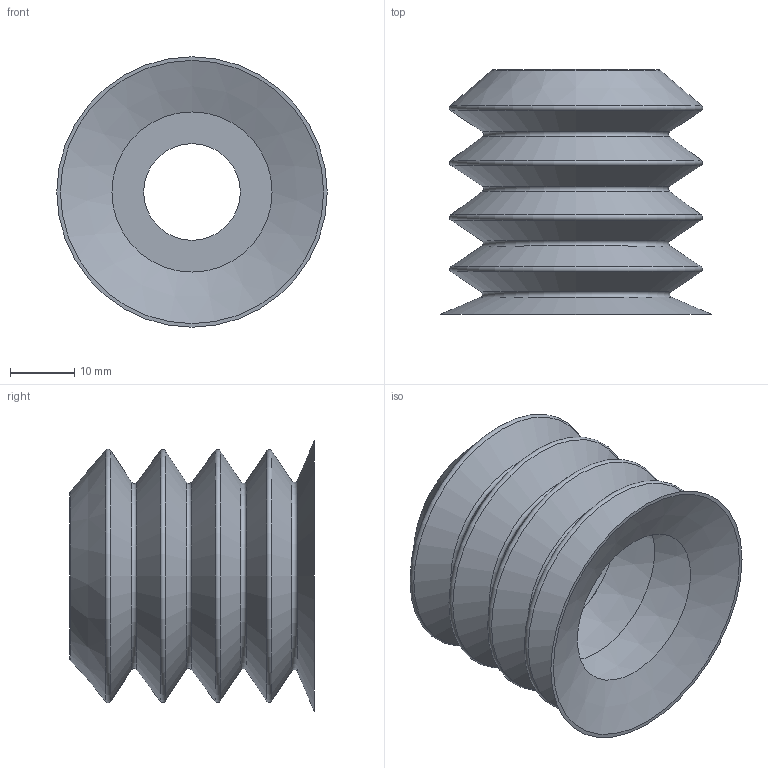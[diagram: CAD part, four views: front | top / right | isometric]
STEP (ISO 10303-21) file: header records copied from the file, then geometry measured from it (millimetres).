
FILE_DESCRIPTION (( 'STEP AP214' ), '1' );
FILE_NAME ('45B.042.001.02MD.STEP', '2025-12-29T15:00:05', ( '' ), ( '' ), 'SwSTEP 2.0', 'SolidWorks 2025', '' );
FILE_SCHEMA (( 'AUTOMOTIVE_DESIGN' ));
Length unit declared in the file: millimetre
Products named in the file (1): 45B.042.001.02MD
Bounding box: 42 x 38 x 42 mm (x, y, z)
Volume: 5333 mm3; surface area: 14421 mm2
Topology: 1 solids, 1 shells, 31 faces, 71 edges, 43 vertices
Faces by surface type: cone 18, torus 9, plane 3, cylinder 1
Full cylindrical faces by diameter (mm): 15 x1
Entity records: 651 total; most frequent: DIRECTION 126, CARTESIAN_POINT 94, AXIS2_PLACEMENT_3D 63, ORIENTED_EDGE 62, EDGE_LOOP 62, FACE_OUTER_BOUND 41, ADVANCED_FACE 31, CIRCLE 31
